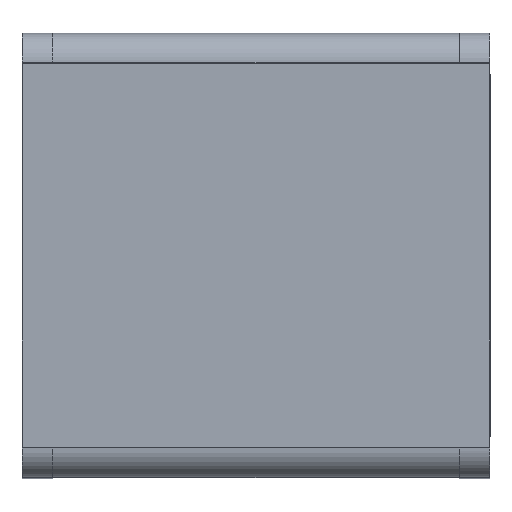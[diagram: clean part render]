
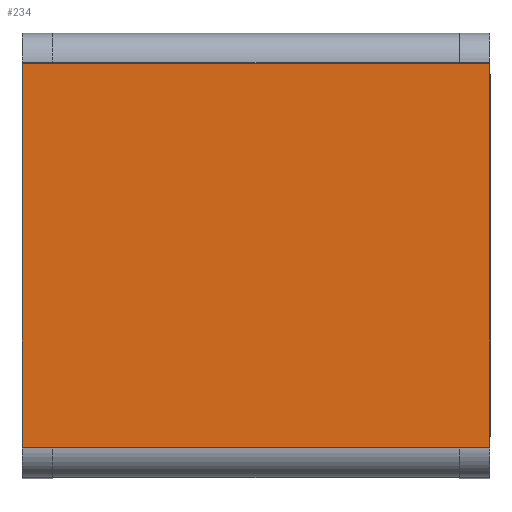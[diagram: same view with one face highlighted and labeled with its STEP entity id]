
A CAD part, top view. The second image highlights one B-rep face of the part: STEP entity #234.
In plain terms, the highlighted planar face has unit normal (0, 0, 1).
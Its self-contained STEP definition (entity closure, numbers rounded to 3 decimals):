
#234=ADVANCED_FACE('',(#330),#1372,.T.);
#330=FACE_OUTER_BOUND('',#426,.T.);
#426=EDGE_LOOP('',(#738,#739,#740,#741));
#738=ORIENTED_EDGE('',*,*,#1020,.F.);
#739=ORIENTED_EDGE('',*,*,#1017,.F.);
#740=ORIENTED_EDGE('',*,*,#1014,.F.);
#741=ORIENTED_EDGE('',*,*,#1010,.F.);
#1010=EDGE_CURVE('',#1260,#1261,#1136,.T.);
#1014=EDGE_CURVE('',#1261,#1264,#1140,.T.);
#1017=EDGE_CURVE('',#1264,#1266,#1143,.T.);
#1020=EDGE_CURVE('',#1266,#1260,#1146,.T.);
#1136=B_SPLINE_CURVE_WITH_KNOTS('',1,(#2170,#2171),.UNSPECIFIED.,.F.,.F.,
(2,2),(-1438.031,-1114.016),.UNSPECIFIED.);
#1140=B_SPLINE_CURVE_WITH_KNOTS('',1,(#2178,#2179),.UNSPECIFIED.,.F.,.F.,
(2,2),(-1114.016,-719.016),.UNSPECIFIED.);
#1143=B_SPLINE_CURVE_WITH_KNOTS('',1,(#2184,#2185),.UNSPECIFIED.,.F.,.F.,
(2,2),(-719.016,-395.),.UNSPECIFIED.);
#1146=B_SPLINE_CURVE_WITH_KNOTS('',1,(#2190,#2191),.UNSPECIFIED.,.F.,.F.,
(2,2),(-395.,0.),.UNSPECIFIED.);
#1260=VERTEX_POINT('',#2162);
#1261=VERTEX_POINT('',#2163);
#1264=VERTEX_POINT('',#2166);
#1266=VERTEX_POINT('',#2168);
#1372=PLANE('',#1554);
#1554=AXIS2_PLACEMENT_3D('',#2160,#1653,$);
#1653=DIRECTION('',(0.,0.,1.));
#2160=CARTESIAN_POINT('',(199.,-162.008,650.));
#2162=CARTESIAN_POINT('',(-196.,-162.008,650.));
#2163=CARTESIAN_POINT('',(-196.,162.008,650.));
#2166=CARTESIAN_POINT('',(199.,162.008,650.));
#2168=CARTESIAN_POINT('',(199.,-162.008,650.));
#2170=CARTESIAN_POINT('',(-196.,-162.008,650.));
#2171=CARTESIAN_POINT('',(-196.,162.008,650.));
#2178=CARTESIAN_POINT('',(-196.,162.008,650.));
#2179=CARTESIAN_POINT('',(199.,162.008,650.));
#2184=CARTESIAN_POINT('',(199.,162.008,650.));
#2185=CARTESIAN_POINT('',(199.,-162.008,650.));
#2190=CARTESIAN_POINT('',(199.,-162.008,650.));
#2191=CARTESIAN_POINT('',(-196.,-162.008,650.));
